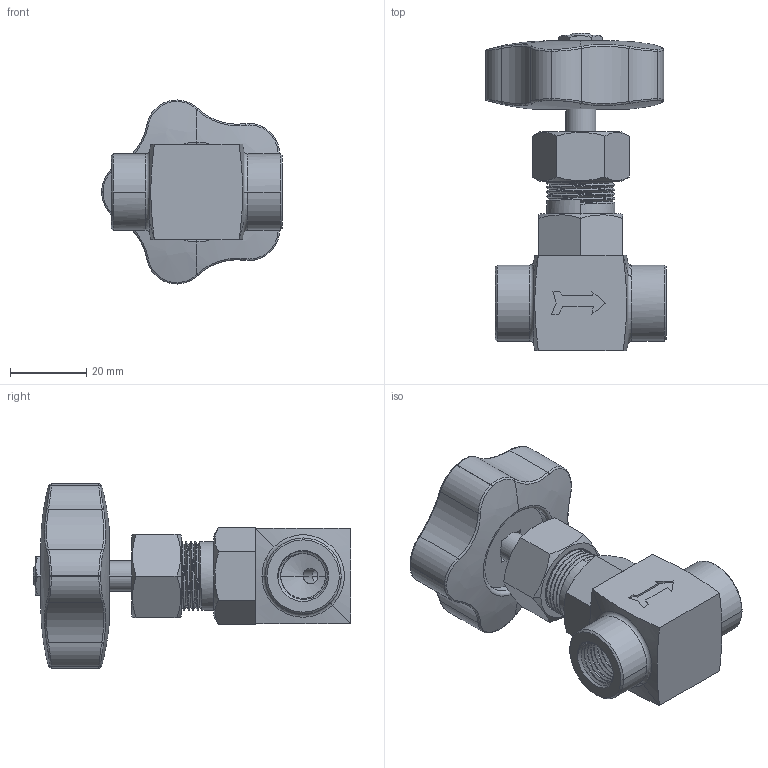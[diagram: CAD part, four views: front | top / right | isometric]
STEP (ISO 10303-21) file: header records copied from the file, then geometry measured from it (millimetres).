
FILE_DESCRIPTION((''),'2;1');
FILE_NAME('65800160300','2016-06-22T',('UFFICIO TECNICO'),('CDM Tecnoconsulting'),'CREO PARAMETRIC BY PTC INC, 2015290','CREO PARAMETRIC BY PTC INC, 2015290','');
FILE_SCHEMA(('CONFIG_CONTROL_DESIGN'));
Length unit declared in the file: millimetre
Products named in the file (1): 65800160300
Bounding box: 47.5 x 83.4 x 48.35 mm (x, y, z)
Surface area: 18518.4 mm2 (no closed solid volume)
Topology: 0 solids, 24 shells, 304 faces, 1046 edges, 764 vertices
Faces by surface type: cylinder 95, plane 75, bspline 64, cone 48, torus 22
Entity records: 23470 total; most frequent: CARTESIAN_POINT 14654, ORIENTED_EDGE 1709, DIRECTION 1377, EDGE_CURVE 1040, VERTEX_POINT 764, AXIS2_PLACEMENT_3D 469, VECTOR 439, LINE 439
